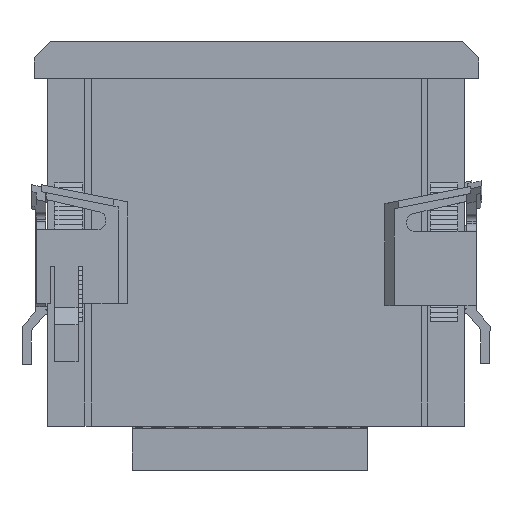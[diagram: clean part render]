
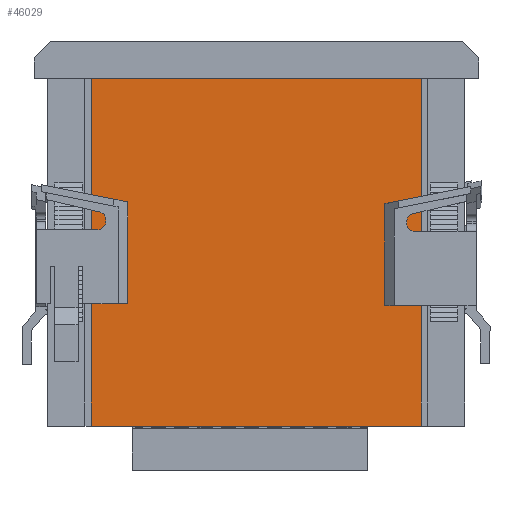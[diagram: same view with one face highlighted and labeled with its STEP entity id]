
A CAD part, front view. The second image highlights one B-rep face of the part: STEP entity #46029.
In plain terms, the highlighted planar face has unit normal (0, -1, 0).
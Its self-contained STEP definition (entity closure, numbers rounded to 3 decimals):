
#4268=PLANE('',#49880);
#6980=FACE_OUTER_BOUND('',#9847,.T.);
#9847=EDGE_LOOP('',(#42468,#42469,#42470,#42471));
#15015=LINE('',#75265,#20237);
#15031=LINE('',#75297,#20253);
#15032=LINE('',#75299,#20254);
#15033=LINE('',#75300,#20255);
#20237=VECTOR('',#62119,10.);
#20253=VECTOR('',#62145,10.);
#20254=VECTOR('',#62146,10.);
#20255=VECTOR('',#62147,10.);
#24643=VERTEX_POINT('',#75263);
#24644=VERTEX_POINT('',#75264);
#24655=VERTEX_POINT('',#75296);
#24656=VERTEX_POINT('',#75298);
#30711=EDGE_CURVE('',#24643,#24644,#15015,.T.);
#30727=EDGE_CURVE('',#24655,#24644,#15031,.T.);
#30728=EDGE_CURVE('',#24655,#24656,#15032,.T.);
#30729=EDGE_CURVE('',#24643,#24656,#15033,.T.);
#42468=ORIENTED_EDGE('',*,*,#30711,.T.);
#42469=ORIENTED_EDGE('',*,*,#30727,.F.);
#42470=ORIENTED_EDGE('',*,*,#30728,.T.);
#42471=ORIENTED_EDGE('',*,*,#30729,.F.);
#46029=ADVANCED_FACE('',(#6980),#4268,.T.);
#49880=AXIS2_PLACEMENT_3D('',#75295,#62143,#62144);
#62119=DIRECTION('',(0.,0.,-1.));
#62143=DIRECTION('center_axis',(0.,-1.,0.));
#62144=DIRECTION('ref_axis',(-1.,0.,0.));
#62145=DIRECTION('',(-1.,0.,0.));
#62146=DIRECTION('',(0.,0.,1.));
#62147=DIRECTION('',(1.,0.,0.));
#75263=CARTESIAN_POINT('',(12.4,3.,0.));
#75264=CARTESIAN_POINT('',(12.4,3.,-75.));
#75265=CARTESIAN_POINT('',(12.4,3.,0.));
#75295=CARTESIAN_POINT('Origin',(93.,3.,0.));
#75296=CARTESIAN_POINT('',(83.6,3.,-75.));
#75297=CARTESIAN_POINT('',(3.,3.,-75.));
#75298=CARTESIAN_POINT('',(83.6,3.,0.));
#75299=CARTESIAN_POINT('',(83.6,3.,0.));
#75300=CARTESIAN_POINT('',(70.5,3.,0.));
